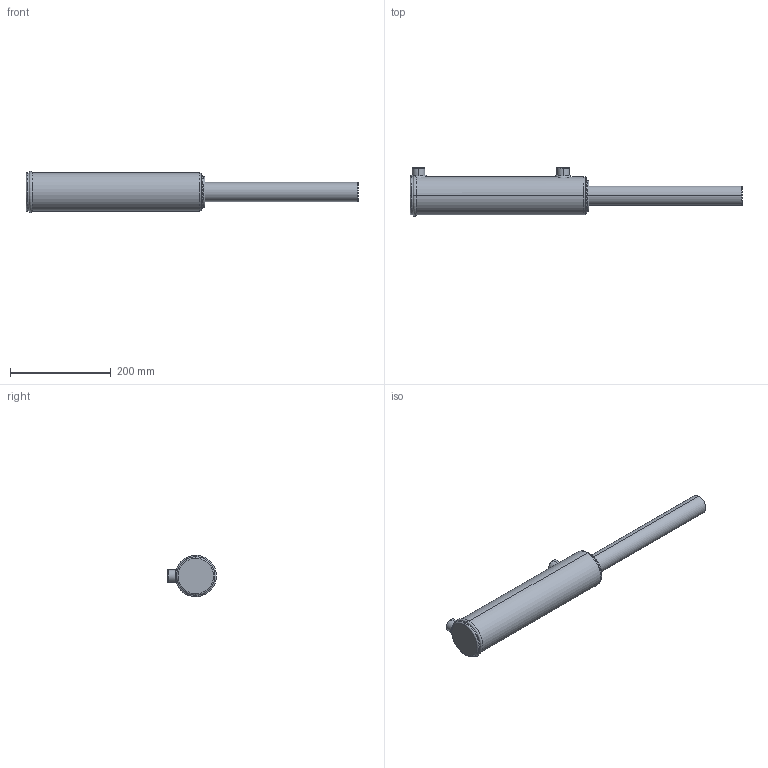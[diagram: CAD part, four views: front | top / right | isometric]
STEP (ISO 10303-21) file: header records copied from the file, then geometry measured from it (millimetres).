
FILE_DESCRIPTION (( 'STEP AP203' ), '1' );
FILE_NAME ('BL250150x254 (10) extended.STEP', '2014-11-25T01:09:07', ( '' ), ( '' ), 'SwSTEP 2.0', 'SolidWorks 2014', '' );
FILE_SCHEMA (( 'CONFIG_CONTROL_DESIGN' ));
Length unit declared in the file: millimetre
Products named in the file (3): BL body 2.5_2.5x10; Spare_2.5x10; BL250150x254 (10) extended
Assembly tree (2 placements, depth 2):
  BL250150x254 (10) extended
    BL body 2.5_2.5x10
    Spare_2.5x10
Bounding box: 659 x 97.2 x 82.2 mm (x, y, z)
Volume: 1739019.8 mm3; surface area: 173970.2 mm2
Topology: 2 solids, 2 shells, 88 faces, 205 edges, 126 vertices
Faces by surface type: cylinder 32, plane 20, torus 18, bspline 10, cone 8
Entity records: 5772 total; most frequent: CARTESIAN_POINT 3521, DIRECTION 422, ORIENTED_EDGE 402, EDGE_CURVE 201, AXIS2_PLACEMENT_3D 182, VERTEX_POINT 126, EDGE_LOOP 101, CIRCLE 99
